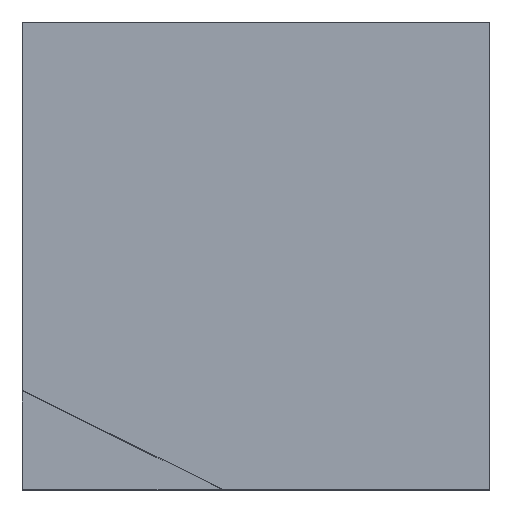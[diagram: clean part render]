
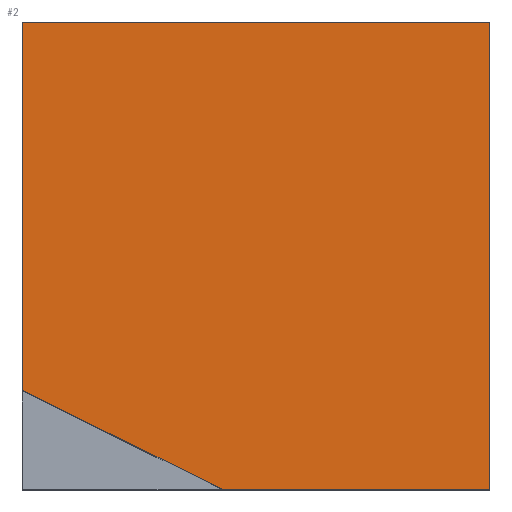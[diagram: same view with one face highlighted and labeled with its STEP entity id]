
A CAD part, top view. The second image highlights one B-rep face of the part: STEP entity #2.
In plain terms, the highlighted planar face has unit normal (0, 0, 1).
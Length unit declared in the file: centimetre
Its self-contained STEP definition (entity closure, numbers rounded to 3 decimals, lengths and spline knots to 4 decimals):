
#2 = ADVANCED_FACE ( 'NONE', ( #344 ), #254, .T. ) ;
#40 = DIRECTION ( 'NONE',  ( 0., 1., 0. ) ) ;
#49 = AXIS2_PLACEMENT_3D ( 'NONE', #471, #292, #518 ) ;
#61 = VECTOR ( 'NONE', #144, 100. ) ;
#69 = CARTESIAN_POINT ( 'NONE',  ( 0., 1000., 1000. ) ) ;
#85 = VECTOR ( 'NONE', #308, 100. ) ;
#90 = EDGE_CURVE ( 'NONE', #172, #527, #397, .T. ) ;
#118 = LINE ( 'NONE', #297, #252 ) ;
#125 = CARTESIAN_POINT ( 'NONE',  ( 427.8333, 0., 1000. ) ) ;
#144 = DIRECTION ( 'NONE',  ( -0.896, 0.444, 0. ) ) ;
#154 = ORIENTED_EDGE ( 'NONE', *, *, #496, .F. ) ;
#168 = VECTOR ( 'NONE', #40, 100. ) ;
#172 = VERTEX_POINT ( 'NONE', #470 ) ;
#176 = LINE ( 'NONE', #310, #378 ) ;
#179 = LINE ( 'NONE', #448, #168 ) ;
#236 = EDGE_CURVE ( 'NONE', #266, #283, #179, .T. ) ;
#237 = EDGE_LOOP ( 'NONE', ( #154, #247, #461, #251, #467 ) ) ;
#247 = ORIENTED_EDGE ( 'NONE', *, *, #347, .T. ) ;
#251 = ORIENTED_EDGE ( 'NONE', *, *, #360, .T. ) ;
#252 = VECTOR ( 'NONE', #440, 100. ) ;
#254 = PLANE ( 'NONE',  #49 ) ;
#266 = VERTEX_POINT ( 'NONE', #412 ) ;
#283 = VERTEX_POINT ( 'NONE', #398 ) ;
#292 = DIRECTION ( 'NONE',  ( 0., 0., 1. ) ) ;
#297 = CARTESIAN_POINT ( 'NONE',  ( 0., 0., 1000. ) ) ;
#308 = DIRECTION ( 'NONE',  ( 0., -1., 0. ) ) ;
#310 = CARTESIAN_POINT ( 'NONE',  ( 0., 1000., 1000. ) ) ;
#344 = FACE_OUTER_BOUND ( 'NONE', #237, .T. ) ;
#347 = EDGE_CURVE ( 'NONE', #465, #266, #118, .T. ) ;
#360 = EDGE_CURVE ( 'NONE', #283, #172, #176, .T. ) ;
#363 = CARTESIAN_POINT ( 'NONE',  ( 0., 211.7816, 1000. ) ) ;
#364 = CARTESIAN_POINT ( 'NONE',  ( 0., 211.7816, 1000. ) ) ;
#378 = VECTOR ( 'NONE', #436, 100. ) ;
#397 = LINE ( 'NONE', #69, #85 ) ;
#398 = CARTESIAN_POINT ( 'NONE',  ( 1000., 1000., 1000. ) ) ;
#407 = LINE ( 'NONE', #363, #61 ) ;
#412 = CARTESIAN_POINT ( 'NONE',  ( 1000., 0., 1000. ) ) ;
#436 = DIRECTION ( 'NONE',  ( -1., 0., 0. ) ) ;
#440 = DIRECTION ( 'NONE',  ( 1., 0., 0. ) ) ;
#448 = CARTESIAN_POINT ( 'NONE',  ( 1000., 1000., 1000. ) ) ;
#461 = ORIENTED_EDGE ( 'NONE', *, *, #236, .T. ) ;
#465 = VERTEX_POINT ( 'NONE', #125 ) ;
#467 = ORIENTED_EDGE ( 'NONE', *, *, #90, .T. ) ;
#470 = CARTESIAN_POINT ( 'NONE',  ( 0., 1000., 1000. ) ) ;
#471 = CARTESIAN_POINT ( 'NONE',  ( 0., 0., 1000. ) ) ;
#496 = EDGE_CURVE ( 'NONE', #465, #527, #407, .T. ) ;
#518 = DIRECTION ( 'NONE',  ( 1., 0., 0. ) ) ;
#527 = VERTEX_POINT ( 'NONE', #364 ) ;
